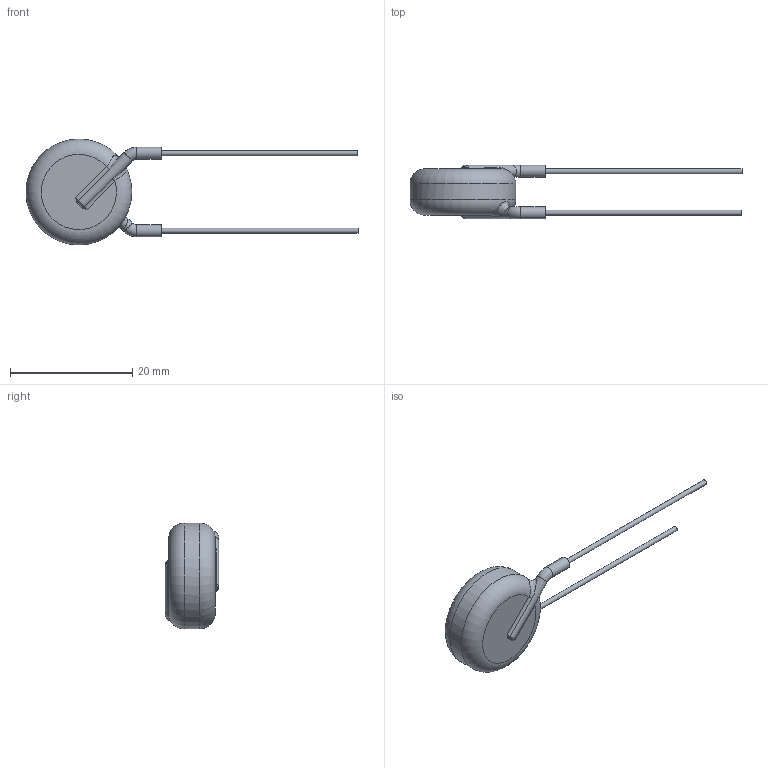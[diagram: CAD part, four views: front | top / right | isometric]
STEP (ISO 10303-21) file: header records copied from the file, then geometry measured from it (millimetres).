
FILE_DESCRIPTION((''),'2;1');
FILE_NAME('I:\Marketing\M6t1\3D-Models\Zchng-Werk-3\Upload for homepage\Ceramite\X5F-10kV\615R100GAT50\615R100GAT50.stp','2015-08-28T09:40:37',(''),(''),'Autodesk Inventor 2013','Autodesk Inventor 2013','');
FILE_SCHEMA(('AUTOMOTIVE_DESIGN { 1 0 10303 214 1 1 1 1 }'));
Length unit declared in the file: centimetre
Products named in the file (1): 615R100GAT50
Bounding box: 54.3 x 8.76 x 17.3 mm (x, y, z)
Volume: 1748.3 mm3; surface area: 1025.4 mm2
Topology: 1 solids, 1 shells, 41 faces, 92 edges, 51 vertices
Faces by surface type: cylinder 13, bspline 10, torus 10, plane 8
Full cylindrical faces by diameter (mm): 0.81 x2, 1.96 x4, 17.3 x1
Entity records: 1499 total; most frequent: CARTESIAN_POINT 666, DIRECTION 152, ORIENTED_EDGE 140, AXIS2_PLACEMENT_3D 70, EDGE_CURVE 70, EDGE_LOOP 54, VERTEX_POINT 44, STYLED_ITEM 42
